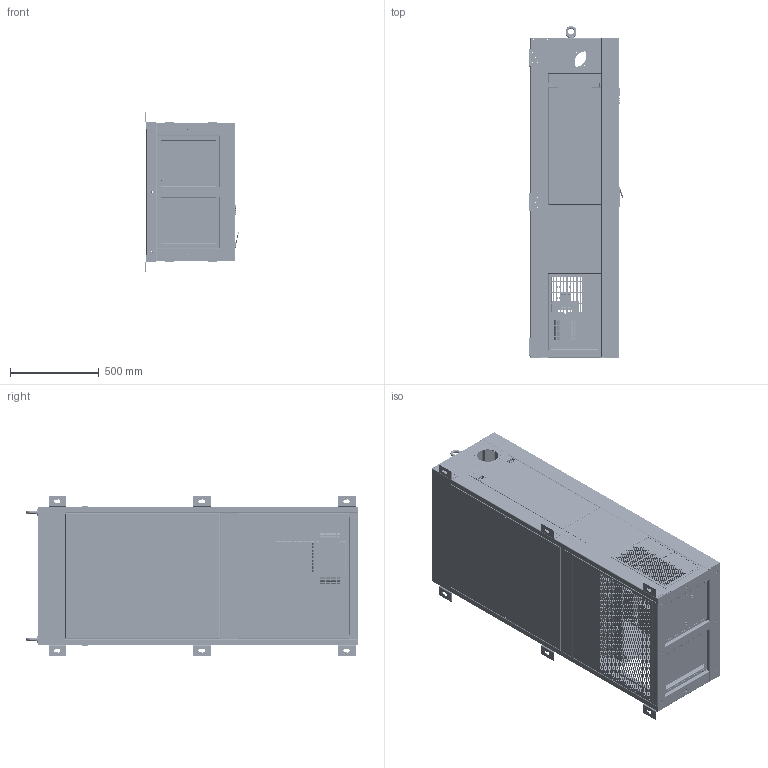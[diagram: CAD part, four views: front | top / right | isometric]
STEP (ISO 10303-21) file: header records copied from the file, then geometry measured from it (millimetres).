
FILE_DESCRIPTION((''),'2;1');
FILE_NAME('310_ASM','2021-04-21T16:33:46',('l93373'),(''),'CREO PARAMETRIC BY PTC INC, 2018190','CREO PARAMETRIC BY PTC INC, 2018190','');
FILE_SCHEMA(('AUTOMOTIVE_DESIGN { 1 0 10303 214 1 1 1 1 }'));
Products named in the file (65): 310MS01; 310MS02; 310MS03; 310MS04; 310MS05; 310MS06; 310MS07; 310MS10; 310MS09; 310MS13; 310MS14; 310MS15; 310MS16; 310MS17; 310MS18; 310MS20; 310MS21; 310MS37; 310MS36; 310MS39; 310MS38; 310MS23; 310MS42; 310MS43; M16-DH; 310MS44; 310MS33; 310MA03_ASM; 310MS22; 310MS28; 310MS29; 310MS32; 310MS31; CK; 310MA06_ASM; 310MS45; 310MS46; 310MS27; 310MS40; 310MA07_ASM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
Assembly tree (100 placements, depth 5):
  310_ASM
    310MA01_ASM
      310MA02_ASM
        310MA03_ASM
          310MS01
          310MS02
          310MS03
          310MS04
          310MS05
          310MS06
          310MS07
          310MS10
          310MS09
          310MS13  x2
          310MS14
          310MS15
          310MS16
          310MS17
          310MS18  x2
          310MS20
          310MS21  x2
          310MS37
          310MS36
          310MS39  x2
          310MS38  x2
          310MS23  x2
          310MS42
          310MS43
          M16-DH  x2
          310MS44
          310MS33  x5
        310MS22
        310MS28
        310MS29
        310MS32  x2
        310MA06_ASM  x2
          310MS31
          CK
        310MS45  x3
        310MS46  x3
        310MA07_ASM
          310MS27
          310MS40
        310MS41  x2
        310MS30
        310MA05_ASM
          310MS11
          XZZ
          SZZ
          MS730
          HMT
          310MS12  x2
          310MS33  x3
        310MS47
    310-QJ_ASM
      1572  x5
      DCLBW-350-500-
    310-FULIAAO_ASM
      108_NET  x10
    302MA01_ASM
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Bounding box: 523.98 x 1870 x 900 mm (x, y, z)
Surface area: 17904823.6 mm2 (no closed solid volume)
Topology: 0 solids, 475 shells, 22460 faces, 58360 edges, 37083 vertices
Faces by surface type: plane 14298, cylinder 7029, torus 686, bspline 275, sphere 80, cone 74, extrusion 18
Entity records: 736208 total; most frequent: CARTESIAN_POINT 112056, ORIENTED_EDGE 98398, DIRECTION 97943, EDGE_CURVE 49211, PRESENTATION_STYLE_ASSIGNMENT 46972, STYLED_ITEM 46777, CURVE_STYLE 46535, VECTOR 36885
